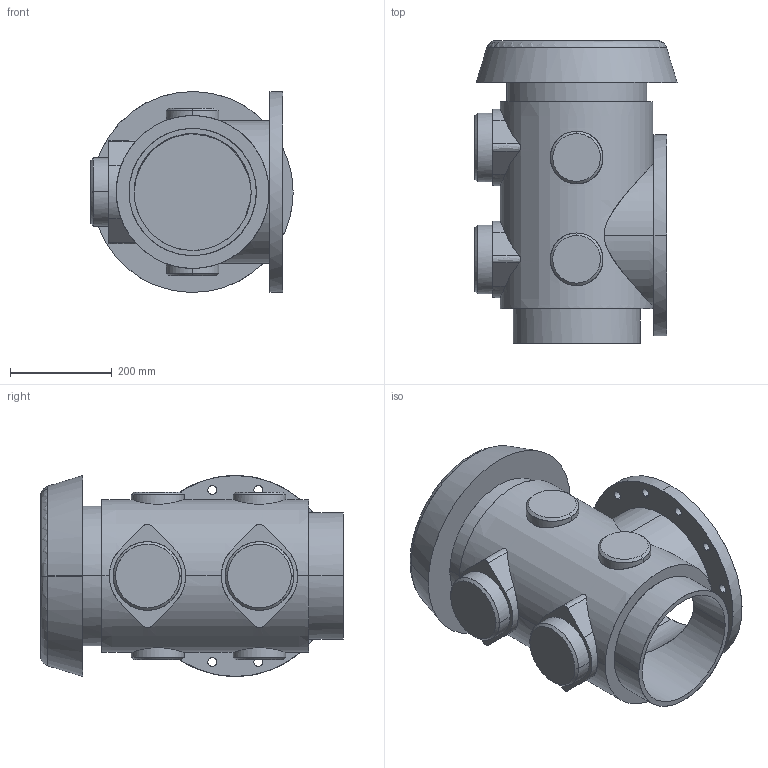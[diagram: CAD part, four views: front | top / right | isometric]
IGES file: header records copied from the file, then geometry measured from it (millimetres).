
Start section:  PTC IGES file: 712987.igs
Global section: file name: 712987.igs; native system: Creo Parametric by PTC Inc.; preprocessor: 2019224; author: gm; organization: Unknown; date: 20210809.103056; units: millimetre
Bounding box: 397.5 x 595 x 395 mm (x, y, z)
Surface area: 1483779.8 mm2 (no closed solid volume)
Topology: 0 solids, 0 shells, 112 faces, 680 edges, 740 vertices
Faces by surface type: revolution 82, bspline 30
